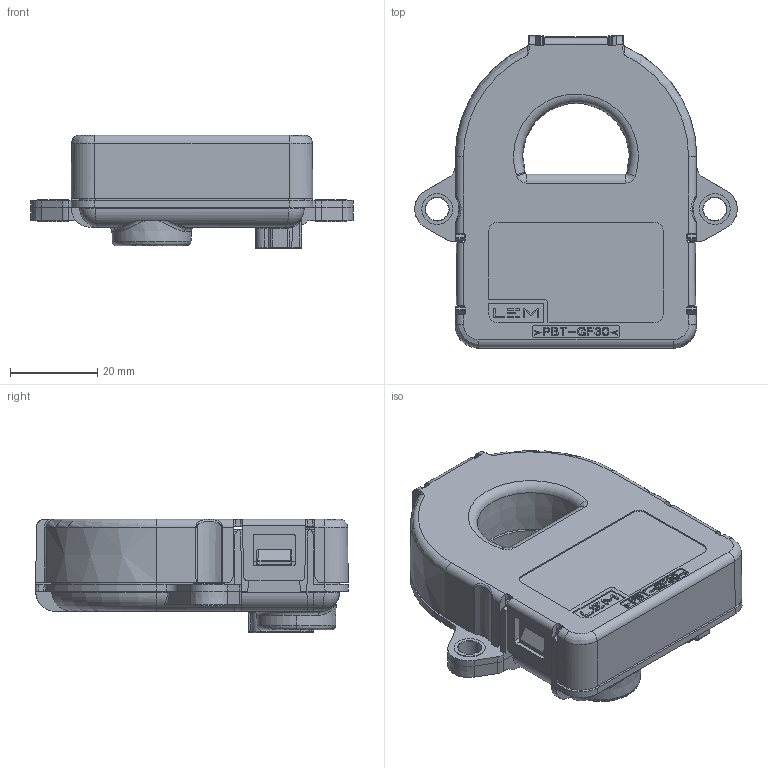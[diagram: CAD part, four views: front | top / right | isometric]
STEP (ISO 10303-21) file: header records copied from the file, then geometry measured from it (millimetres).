
FILE_DESCRIPTION(('Creo Elements/Direct Modeling STEP Export'),'2;1');
FILE_NAME('CAB-SF_1500-001.stp','2023-09-19T 8:30:59',(''),(''),'Creo Elements/Direct Modeling STEP processor for AP214 (Solid Model)','Creo Elements/Direct Modeling 20.3D 14-Nov-2022 (C) Parametric Technology GmbH','');
FILE_SCHEMA(('AUTOMOTIVE_DESIGN { 1 0 10303 214 1 1 1 1 }'));
Products named in the file (2): CAB-SF_1500-001-627310_P-839740.PRT
Assembly tree (1 placements, depth 2):
  CAB-SF_1500-001-627310_P-839740.PRT
    CAB-SF_1500-001-627310_P-839740.PRT
Bounding box: 73.8 x 71.45 x 25.94 mm (x, y, z)
Volume: 62542.5 mm3; surface area: 26888.8 mm2
Topology: 1 solids, 1 shells, 1627 faces, 4368 edges, 2772 vertices
Faces by surface type: plane 1041, cylinder 320, bspline 170, cone 50, torus 30, extrusion 14, sphere 2
Entity records: 85911 total; most frequent: CARTESIAN_POINT 33931, ORIENTED_EDGE 8718, DIRECTION 7097, EDGE_CURVE 4359, VECTOR 3227, LINE 3213, VERTEX_POINT 2772, AXIS2_PLACEMENT_3D 1935
